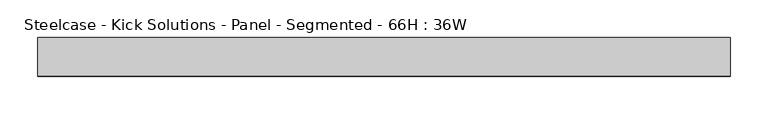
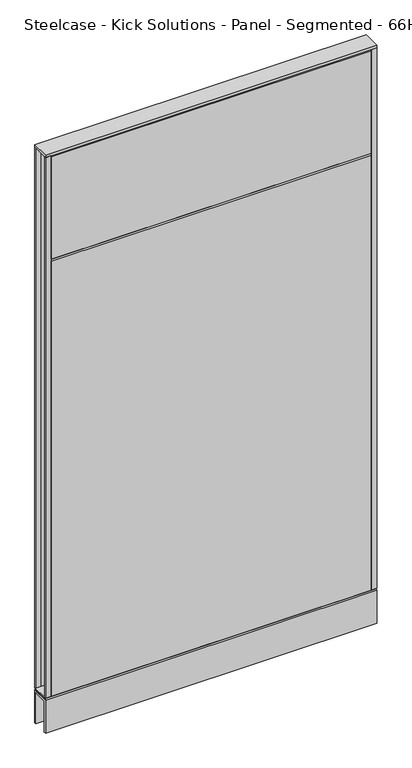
"""IFC4 building model written with IfcOpenShell, lengths in millimetres: furniture geometry, Steelcase - Kick Solutions - Panel - Segmented - 66H : 36W."""

from ifc_helpers import new_model, si_unit, frame, origin, place, context, project, spatial, polyline, outline, extrude, source, transform, mapped, element, save


def steelcase_kick_solutions_panel_segmented_66h_36w_e765a8a1(model_context):
    return source(origin(), model_context, "Body", "SweptSolid", [
        extrude(outline(polyline([(1.5e-06, 101.600003), (-3.175, 101.600003), (-3.175, 1676.4), (1.5e-06, 1673.3188448), (1.5e-06, 101.600003)])), frame((15.8749996, 0.0, 0.0), z_axis=(1.0, 0.0, 0.0), x_axis=(0.0, 1.0, 0.0)), (0.0, 0.0, 1.0), 882.6500008),
        extrude(outline(polyline([(-50.8000015, 1374.6811552), (-50.8000015, 1673.3188448), (-47.625, 1676.4), (-47.625, 1371.6), (-50.8000015, 1374.6811552)])), frame((15.8749996, 0.0, 0.0), z_axis=(1.0, 0.0, 0.0), x_axis=(0.0, 1.0, 0.0)), (0.0, 0.0, 1.0), 882.6500008),
        extrude(outline(polyline([(-50.8000015, 101.600003), (-50.8000015, 1368.5188448), (-47.625, 1371.6), (-47.625, 101.600003), (-50.8000015, 101.600003)])), frame((15.8749996, 0.0, 0.0), z_axis=(1.0, 0.0, 0.0), x_axis=(0.0, 1.0, 0.0)), (0.0, 0.0, 1.0), 882.6500008),
        extrude(outline(polyline([(914.4, -3.1750015), (898.5250004, -3.1750015), (898.5250004, 0.0), (914.4, 0.0), (914.4, -3.1750015)])), frame((0.0, 0.0, 101.7169049), z_axis=(0.0, 0.0, 1.0), x_axis=(1.0, 0.0, 0.0)), (0.0, 0.0, 1.0), 1574.799997),
        extrude(outline(polyline([(15.8749996, -50.8000015), (0.0, -50.8000015), (0.0, -47.625), (15.8749996, -47.625), (15.8749996, -50.8000015)])), frame((0.0, 0.0, 101.7169049), z_axis=(0.0, 0.0, 1.0), x_axis=(1.0, 0.0, 0.0)), (0.0, 0.0, 1.0), 1574.799997),
        extrude(outline(polyline([(-50.7995075, 101.7169049), (-0.000494, 101.7169049), (-3.0583512, 98.5421458), (-47.7416503, 98.5421458), (-50.7995075, 101.7169049)])), frame((0.0, 0.0, 0.0), z_axis=(1.0, 0.0, 0.0), x_axis=(0.0, 1.0, 0.0)), (0.0, 0.0, 1.0), 914.4),
        extrude(outline(polyline([(914.4, 0.0), (914.4, -50.8000015), (0.0, -50.8000015), (0.0, 0.0), (914.4, 0.0)])), frame((0.0, 0.0, 1676.5169018), z_axis=(0.0, 0.0, 1.0), x_axis=(1.0, 0.0, 0.0)), (0.0, 0.0, 1.0), 6.35),
        extrude(outline(polyline([(15.8749996, -3.1750015), (0.0, -3.1750015), (0.0, 0.0), (15.8749996, 0.0), (15.8749996, -3.1750015)])), frame((0.0, 0.0, 101.7169049), z_axis=(0.0, 0.0, 1.0), x_axis=(1.0, 0.0, 0.0)), (0.0, 0.0, 1.0), 1574.799997),
        extrude(outline(polyline([(914.4, -50.8000015), (898.5250004, -50.8000015), (898.5250004, -47.625), (914.4, -47.625), (914.4, -50.8000015)])), frame((0.0, 0.0, 101.7169049), z_axis=(0.0, 0.0, 1.0), x_axis=(1.0, 0.0, 0.0)), (0.0, 0.0, 1.0), 1574.799997),
        extrude(outline(polyline([(-50.8000015, 95.3668927), (-47.6247484, 98.5421458), (-3.1752531, 98.5421458), (0.0, 95.3668927), (-50.8000015, 95.3668927)])), frame((0.0, 0.0, 0.0), z_axis=(1.0, 0.0, 0.0), x_axis=(0.0, 1.0, 0.0)), (0.0, 0.0, 1.0), 914.4),
        extrude(outline(polyline([(0.0, 0.0), (-5.08, 0.0), (-5.08, 90.2869018), (-45.7200015, 90.2869018), (-45.7200015, 0.0), (-50.8000015, 0.0), (-50.8000015, 95.3669018), (0.0, 95.3669018), (0.0, 0.0)])), frame((0.0, 0.0, 0.0), z_axis=(1.0, 0.0, 0.0), x_axis=(0.0, 1.0, 0.0)), (0.0, 0.0, 1.0), 914.4),
    ])


if __name__ == "__main__":
    model = new_model("IFC4")
    model_context = context("Model", 3, world=origin())
    ifc_project = project(units=[si_unit("LENGTHUNIT", "METRE", prefix="MILLI")], contexts=[model_context])
    site = spatial("IfcSite", under=ifc_project)
    building = spatial("IfcBuilding", under=site)
    placement = place(None, origin())
    steelcase_kick_solutions_panel_segmented_66h_36w_shape = steelcase_kick_solutions_panel_segmented_66h_36w_e765a8a1(model_context)
    element("IfcFurniture", 1, ObjectType="Steelcase - Kick Solutions - Panel - Segmented - 66H : 36W", at=placement, inside=building, context=model_context, shape_type="MappedRepresentation", body=[
        mapped(steelcase_kick_solutions_panel_segmented_66h_36w_shape, transform((0.0, 0.0, 0.0), x_axis=(1.0, 0.0, 0.0), y_axis=(0.0, 1.0, 0.0), z_axis=(0.0, 0.0, 1.0))),
    ])
    save(model, "model.ifc")
